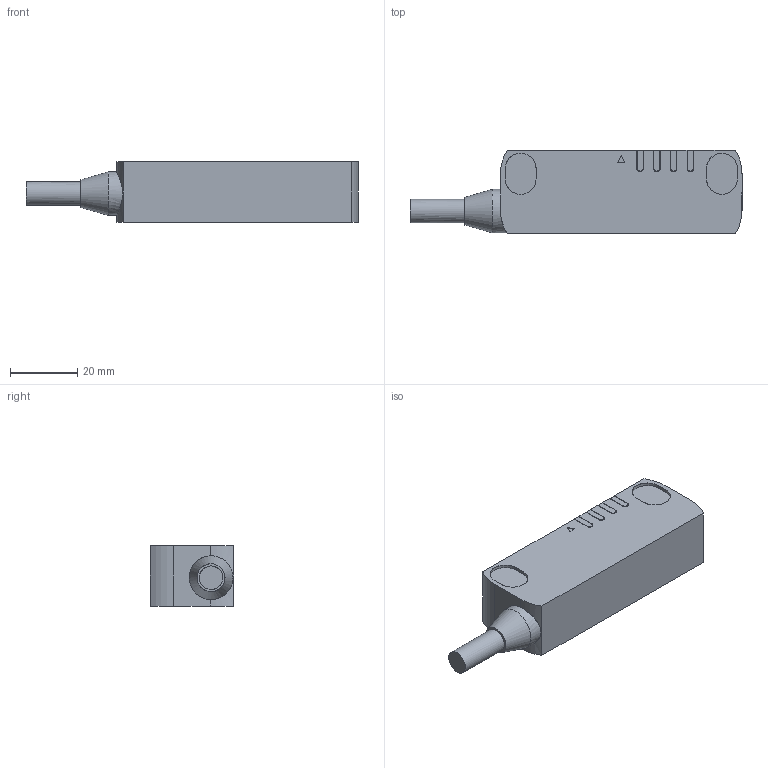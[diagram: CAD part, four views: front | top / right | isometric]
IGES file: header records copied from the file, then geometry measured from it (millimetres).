
Global section: file name: 3DCAD_RD800_xxCA_CB2_L.igs; native system: NX V2306; preprocessor: SIEMENS PLM Software NX2306.9180; date: 20250813.094932; units: millimetre
Bounding box: 99 x 25 x 18 mm (x, y, z)
Surface area: 9644.6 mm2 (no closed solid volume)
Topology: 0 solids, 0 shells, 230 faces, 1437 edges, 1435 vertices
Faces by surface type: bspline 230
